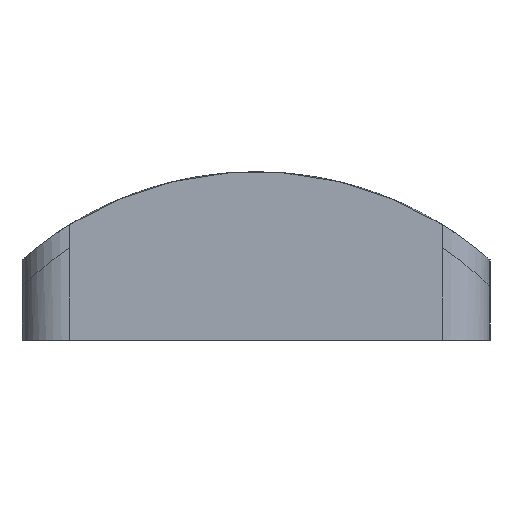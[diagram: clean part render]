
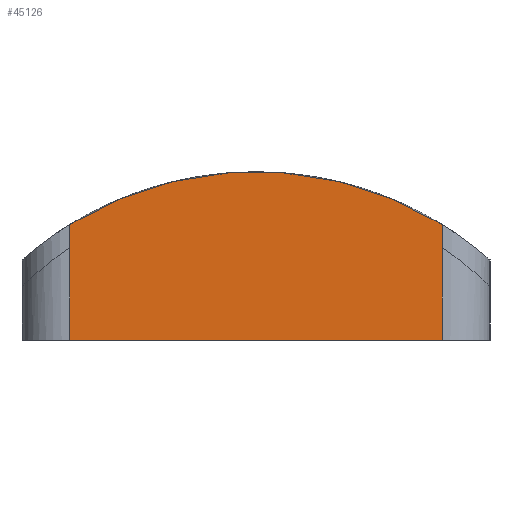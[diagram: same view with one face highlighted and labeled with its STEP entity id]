
A CAD part, left-side view. The second image highlights one B-rep face of the part: STEP entity #45126.
In plain terms, the highlighted planar face has unit normal (-1, 0, 0).
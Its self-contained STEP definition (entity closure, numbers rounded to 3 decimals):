
#22 = VERTEX_POINT('',#23);
#23 = CARTESIAN_POINT('',(245.3,10.5,17.022));
#61 = CYLINDRICAL_SURFACE('',#62,20.);
#62 = AXIS2_PLACEMENT_3D('',#63,#64,#65);
#63 = CARTESIAN_POINT('',(244.,0.,0.));
#64 = DIRECTION('',(1.,0.,0.));
#65 = DIRECTION('',(-0.,0.,1.));
#102 = CYLINDRICAL_SURFACE('',#103,2.7);
#103 = AXIS2_PLACEMENT_3D('',#104,#105,#106);
#104 = CARTESIAN_POINT('',(248.,10.5,5.));
#105 = DIRECTION('',(0.,0.,1.));
#106 = DIRECTION('',(-1.,-0.,0.));
#143 = EDGE_CURVE('',#22,#144,#146,.T.);
#144 = VERTEX_POINT('',#145);
#145 = CARTESIAN_POINT('',(245.3,-10.5,17.022));
#146 = SURFACE_CURVE('',#147,(#152,#159),.PCURVE_S1.);
#147 = CIRCLE('',#148,20.);
#148 = AXIS2_PLACEMENT_3D('',#149,#150,#151);
#149 = CARTESIAN_POINT('',(245.3,0.,0.));
#150 = DIRECTION('',(1.,0.,0.));
#151 = DIRECTION('',(-0.,0.525,0.851));
#152 = PCURVE('',#61,#153);
#153 = DEFINITIONAL_REPRESENTATION('',(#154),#158);
#154 = LINE('',#155,#156);
#155 = CARTESIAN_POINT('',(5.73,1.3));
#156 = VECTOR('',#157,1.);
#157 = DIRECTION('',(1.,0.));
#158 = ( GEOMETRIC_REPRESENTATION_CONTEXT(2) 
PARAMETRIC_REPRESENTATION_CONTEXT() REPRESENTATION_CONTEXT('2D SPACE',''
  ) );
#159 = PCURVE('',#160,#165);
#160 = PLANE('',#161);
#161 = AXIS2_PLACEMENT_3D('',#162,#163,#164);
#162 = CARTESIAN_POINT('',(245.3,-13.2,5.));
#163 = DIRECTION('',(1.,0.,0.));
#164 = DIRECTION('',(0.,0.,1.));
#165 = DEFINITIONAL_REPRESENTATION('',(#166),#170);
#166 = CIRCLE('',#167,20.);
#167 = AXIS2_PLACEMENT_2D('',#168,#169);
#168 = CARTESIAN_POINT('',(-5.,-13.2));
#169 = DIRECTION('',(0.851,-0.525));
#170 = ( GEOMETRIC_REPRESENTATION_CONTEXT(2) 
PARAMETRIC_REPRESENTATION_CONTEXT() REPRESENTATION_CONTEXT('2D SPACE',''
  ) );
#246 = CYLINDRICAL_SURFACE('',#247,2.7);
#247 = AXIS2_PLACEMENT_3D('',#248,#249,#250);
#248 = CARTESIAN_POINT('',(248.,-10.5,5.));
#249 = DIRECTION('',(0.,0.,1.));
#250 = DIRECTION('',(-1.,-0.,0.));
#27480 = PLANE('',#27481);
#27481 = AXIS2_PLACEMENT_3D('',#27482,#27483,#27484);
#27482 = CARTESIAN_POINT('',(245.3,-13.2,10.5));
#27483 = DIRECTION('',(0.,0.,1.));
#27484 = DIRECTION('',(1.,0.,0.));
#27495 = EDGE_CURVE('',#27496,#27498,#27500,.T.);
#27496 = VERTEX_POINT('',#27497);
#27497 = CARTESIAN_POINT('',(245.3,-10.5,10.5));
#27498 = VERTEX_POINT('',#27499);
#27499 = CARTESIAN_POINT('',(245.3,10.5,10.5));
#27500 = SURFACE_CURVE('',#27501,(#27505,#27512),.PCURVE_S1.);
#27501 = LINE('',#27502,#27503);
#27502 = CARTESIAN_POINT('',(245.3,-13.2,10.5));
#27503 = VECTOR('',#27504,1.);
#27504 = DIRECTION('',(0.,1.,0.));
#27505 = PCURVE('',#27480,#27506);
#27506 = DEFINITIONAL_REPRESENTATION('',(#27507),#27511);
#27507 = LINE('',#27508,#27509);
#27508 = CARTESIAN_POINT('',(0.,0.));
#27509 = VECTOR('',#27510,1.);
#27510 = DIRECTION('',(0.,1.));
#27511 = ( GEOMETRIC_REPRESENTATION_CONTEXT(2) 
PARAMETRIC_REPRESENTATION_CONTEXT() REPRESENTATION_CONTEXT('2D SPACE',''
  ) );
#27512 = PCURVE('',#160,#27513);
#27513 = DEFINITIONAL_REPRESENTATION('',(#27514),#27518);
#27514 = LINE('',#27515,#27516);
#27515 = CARTESIAN_POINT('',(5.5,0.));
#27516 = VECTOR('',#27517,1.);
#27517 = DIRECTION('',(0.,-1.));
#27518 = ( GEOMETRIC_REPRESENTATION_CONTEXT(2) 
PARAMETRIC_REPRESENTATION_CONTEXT() REPRESENTATION_CONTEXT('2D SPACE',''
  ) );
#27537 = CYLINDRICAL_SURFACE('',#27538,2.7);
#27538 = AXIS2_PLACEMENT_3D('',#27539,#27540,#27541);
#27539 = CARTESIAN_POINT('',(248.,-10.5,10.5));
#27540 = DIRECTION('',(0.,0.,1.));
#27541 = DIRECTION('',(-1.,-0.,0.));
#27893 = CYLINDRICAL_SURFACE('',#27894,2.7);
#27894 = AXIS2_PLACEMENT_3D('',#27895,#27896,#27897);
#27895 = CARTESIAN_POINT('',(248.,10.5,10.5));
#27896 = DIRECTION('',(0.,0.,1.));
#27897 = DIRECTION('',(-1.,-0.,0.));
#27908 = EDGE_CURVE('',#27498,#27909,#27911,.T.);
#27909 = VERTEX_POINT('',#27910);
#27910 = CARTESIAN_POINT('',(245.3,10.5,15.715));
#27911 = SURFACE_CURVE('',#27912,(#27916,#27923),.PCURVE_S1.);
#27912 = LINE('',#27913,#27914);
#27913 = CARTESIAN_POINT('',(245.3,10.5,10.5));
#27914 = VECTOR('',#27915,1.);
#27915 = DIRECTION('',(0.,0.,1.));
#27916 = PCURVE('',#27893,#27917);
#27917 = DEFINITIONAL_REPRESENTATION('',(#27918),#27922);
#27918 = LINE('',#27919,#27920);
#27919 = CARTESIAN_POINT('',(-0.,0.));
#27920 = VECTOR('',#27921,1.);
#27921 = DIRECTION('',(-0.,1.));
#27922 = ( GEOMETRIC_REPRESENTATION_CONTEXT(2) 
PARAMETRIC_REPRESENTATION_CONTEXT() REPRESENTATION_CONTEXT('2D SPACE',''
  ) );
#27923 = PCURVE('',#160,#27924);
#27924 = DEFINITIONAL_REPRESENTATION('',(#27925),#27929);
#27925 = LINE('',#27926,#27927);
#27926 = CARTESIAN_POINT('',(5.5,-23.7));
#27927 = VECTOR('',#27928,1.);
#27928 = DIRECTION('',(1.,0.));
#27929 = ( GEOMETRIC_REPRESENTATION_CONTEXT(2) 
PARAMETRIC_REPRESENTATION_CONTEXT() REPRESENTATION_CONTEXT('2D SPACE',''
  ) );
#36397 = EDGE_CURVE('',#27496,#36398,#36400,.T.);
#36398 = VERTEX_POINT('',#36399);
#36399 = CARTESIAN_POINT('',(245.3,-10.5,15.715));
#36400 = SURFACE_CURVE('',#36401,(#36405,#36412),.PCURVE_S1.);
#36401 = LINE('',#36402,#36403);
#36402 = CARTESIAN_POINT('',(245.3,-10.5,10.5));
#36403 = VECTOR('',#36404,1.);
#36404 = DIRECTION('',(0.,0.,1.));
#36405 = PCURVE('',#27537,#36406);
#36406 = DEFINITIONAL_REPRESENTATION('',(#36407),#36411);
#36407 = LINE('',#36408,#36409);
#36408 = CARTESIAN_POINT('',(0.,0.));
#36409 = VECTOR('',#36410,1.);
#36410 = DIRECTION('',(0.,1.));
#36411 = ( GEOMETRIC_REPRESENTATION_CONTEXT(2) 
PARAMETRIC_REPRESENTATION_CONTEXT() REPRESENTATION_CONTEXT('2D SPACE',''
  ) );
#36412 = PCURVE('',#160,#36413);
#36413 = DEFINITIONAL_REPRESENTATION('',(#36414),#36418);
#36414 = LINE('',#36415,#36416);
#36415 = CARTESIAN_POINT('',(5.5,-2.7));
#36416 = VECTOR('',#36417,1.);
#36417 = DIRECTION('',(1.,0.));
#36418 = ( GEOMETRIC_REPRESENTATION_CONTEXT(2) 
PARAMETRIC_REPRESENTATION_CONTEXT() REPRESENTATION_CONTEXT('2D SPACE',''
  ) );
#45103 = EDGE_CURVE('',#36398,#144,#45104,.T.);
#45104 = SURFACE_CURVE('',#45105,(#45109,#45116),.PCURVE_S1.);
#45105 = LINE('',#45106,#45107);
#45106 = CARTESIAN_POINT('',(245.3,-10.5,15.715));
#45107 = VECTOR('',#45108,1.);
#45108 = DIRECTION('',(0.,0.,1.));
#45109 = PCURVE('',#246,#45110);
#45110 = DEFINITIONAL_REPRESENTATION('',(#45111),#45115);
#45111 = LINE('',#45112,#45113);
#45112 = CARTESIAN_POINT('',(0.,10.715));
#45113 = VECTOR('',#45114,1.);
#45114 = DIRECTION('',(0.,1.));
#45115 = ( GEOMETRIC_REPRESENTATION_CONTEXT(2) 
PARAMETRIC_REPRESENTATION_CONTEXT() REPRESENTATION_CONTEXT('2D SPACE',''
  ) );
#45116 = PCURVE('',#160,#45117);
#45117 = DEFINITIONAL_REPRESENTATION('',(#45118),#45122);
#45118 = LINE('',#45119,#45120);
#45119 = CARTESIAN_POINT('',(10.715,-2.7));
#45120 = VECTOR('',#45121,1.);
#45121 = DIRECTION('',(1.,0.));
#45122 = ( GEOMETRIC_REPRESENTATION_CONTEXT(2) 
PARAMETRIC_REPRESENTATION_CONTEXT() REPRESENTATION_CONTEXT('2D SPACE',''
  ) );
#45126 = ADVANCED_FACE('',(#45127),#160,.F.);
#45127 = FACE_BOUND('',#45128,.F.);
#45128 = EDGE_LOOP('',(#45129,#45130,#45131,#45132,#45133,#45134));
#45129 = ORIENTED_EDGE('',*,*,#143,.T.);
#45130 = ORIENTED_EDGE('',*,*,#45103,.F.);
#45131 = ORIENTED_EDGE('',*,*,#36397,.F.);
#45132 = ORIENTED_EDGE('',*,*,#27495,.T.);
#45133 = ORIENTED_EDGE('',*,*,#27908,.T.);
#45134 = ORIENTED_EDGE('',*,*,#45135,.T.);
#45135 = EDGE_CURVE('',#27909,#22,#45136,.T.);
#45136 = SURFACE_CURVE('',#45137,(#45141,#45148),.PCURVE_S1.);
#45137 = LINE('',#45138,#45139);
#45138 = CARTESIAN_POINT('',(245.3,10.5,15.715));
#45139 = VECTOR('',#45140,1.);
#45140 = DIRECTION('',(0.,0.,1.));
#45141 = PCURVE('',#160,#45142);
#45142 = DEFINITIONAL_REPRESENTATION('',(#45143),#45147);
#45143 = LINE('',#45144,#45145);
#45144 = CARTESIAN_POINT('',(10.715,-23.7));
#45145 = VECTOR('',#45146,1.);
#45146 = DIRECTION('',(1.,0.));
#45147 = ( GEOMETRIC_REPRESENTATION_CONTEXT(2) 
PARAMETRIC_REPRESENTATION_CONTEXT() REPRESENTATION_CONTEXT('2D SPACE',''
  ) );
#45148 = PCURVE('',#102,#45149);
#45149 = DEFINITIONAL_REPRESENTATION('',(#45150),#45154);
#45150 = LINE('',#45151,#45152);
#45151 = CARTESIAN_POINT('',(-0.,10.715));
#45152 = VECTOR('',#45153,1.);
#45153 = DIRECTION('',(-0.,1.));
#45154 = ( GEOMETRIC_REPRESENTATION_CONTEXT(2) 
PARAMETRIC_REPRESENTATION_CONTEXT() REPRESENTATION_CONTEXT('2D SPACE',''
  ) );
